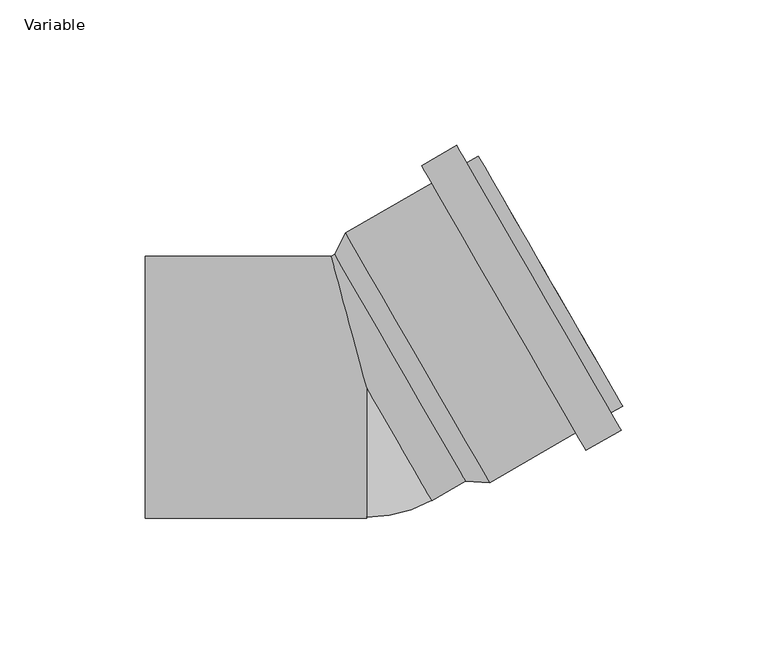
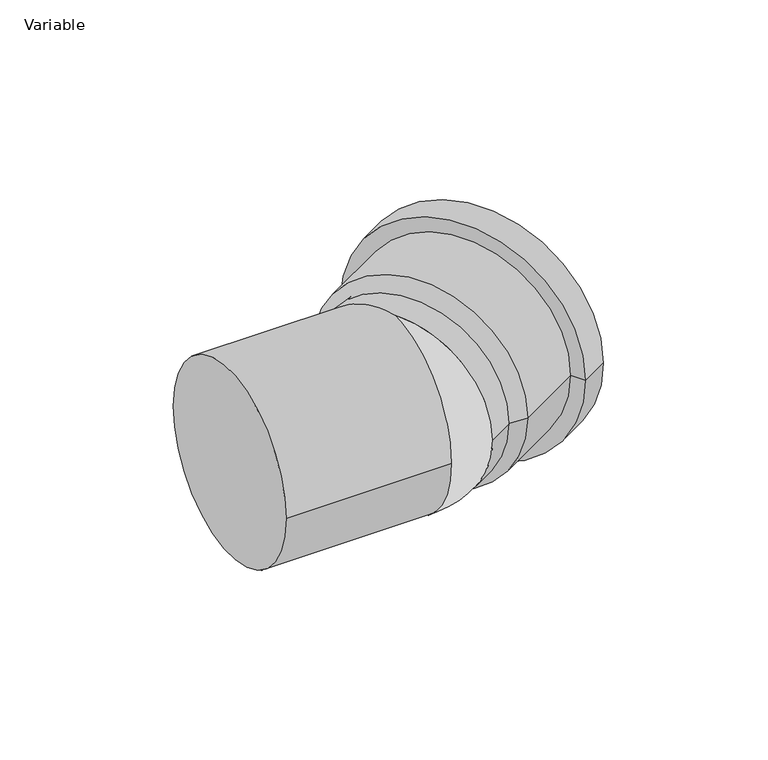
"""IFC4 building model written with IfcOpenShell, lengths in millimetres: pipe fitting geometry, AliaxisFR_Friaphon_ElbowMF_FR : Variable."""

import ifcopenshell
import ifcopenshell.guid

model = None  # the IFC model being written
_history = None  # IfcOwnerHistory: only IFC2X3 demands one
_inside = {}  # id of a spatial element -> (the spatial element, [elements in it])
_under = {}  # id of a project, library or spatial element -> (it, [spatial elements below it])
_declared = {}  # id of a project -> (the project, [libraries it declares])
_typed = {}  # id of a type object -> (the type object, [elements of that type])
_made_of = {}  # id of a material, layer set ... -> (it, [elements and type objects made of it])


def new_model(schema):
    """Start an empty IFC model of exactly this schema.

    Asked for "IFC4X3", IfcOpenShell would pick the latest addendum, in which some entities
    have other attributes; the version numbers below select the first issue.
    IFC2X3 requires an IfcOwnerHistory on every rooted entity: one is made here for all.
    """
    global model, _history
    if schema == "IFC4X3":
        model = ifcopenshell.file(schema_version=(4, 3, 0, 0))
    else:
        model = ifcopenshell.file(schema=schema)
    _inside.clear()
    _under.clear()
    _declared.clear()
    _typed.clear()
    _made_of.clear()
    _history = None
    if model.schema == "IFC2X3":
        org = make("IfcOrganization", Name="unknown")
        user = make(
            "IfcPersonAndOrganization",
            ThePerson=make("IfcPerson", FamilyName="unknown"),
            TheOrganization=org,
        )
        app = make(
            "IfcApplication",
            ApplicationDeveloper=org,
            Version="unknown",
            ApplicationFullName="unknown",
            ApplicationIdentifier="unknown",
        )
        _history = make(
            "IfcOwnerHistory",
            OwningUser=user,
            OwningApplication=app,
            ChangeAction="ADDED",
            CreationDate=0,
        )
    return model


def make(cls, **values):
    """One entity of the class cls with the attributes given. An attribute that is None is left unset."""
    return model.create_entity(
        cls, **{name: value for name, value in values.items() if value is not None}
    )


def rooted(cls, **values):
    """An entity with a GlobalId (a new one), such as an element, a storey or a relation."""
    return make(cls, GlobalId=ifcopenshell.guid.new(), OwnerHistory=_history, **values)


def si_unit(unit_type, name, prefix=None):
    """IfcSIUnit, for example si_unit("LENGTHUNIT", "METRE", prefix="MILLI")."""
    return make("IfcSIUnit", UnitType=unit_type, Prefix=prefix, Name=name)


def assignment(units):
    """IfcUnitAssignment: the units of a project."""
    return None if units is None else make("IfcUnitAssignment", Units=units)


def point(xyz):
    """IfcCartesianPoint."""
    return None if xyz is None else make("IfcCartesianPoint", Coordinates=xyz)


def direction(xyz):
    """IfcDirection."""
    return None if xyz is None else make("IfcDirection", DirectionRatios=xyz)


def frame(location, z_axis=None, x_axis=None):
    """IfcAxis2Placement3D, a coordinate frame: its origin and axes. An axis left out is left unset."""
    return make(
        "IfcAxis2Placement3D",
        Location=point(location),
        Axis=direction(z_axis),
        RefDirection=direction(x_axis),
    )


def origin():
    """The frame at (0, 0, 0) with its axes left unset."""
    return frame((0.0, 0.0, 0.0))


def place(relative_to, where):
    """IfcLocalPlacement: puts the frame where relative to a parent placement (None: the world)."""
    return make(
        "IfcLocalPlacement", PlacementRelTo=relative_to, RelativePlacement=where
    )


def context(
    kind, dimensions, precision=None, world=None, true_north=None, identifier=None
):
    """IfcGeometricRepresentationContext, for example the 3D "Model" context."""
    return make(
        "IfcGeometricRepresentationContext",
        ContextIdentifier=identifier,
        ContextType=kind,
        CoordinateSpaceDimension=dimensions,
        Precision=precision,
        WorldCoordinateSystem=world,
        TrueNorth=true_north,
    )


def project(units=None, contexts=None):
    """IfcProject with its units and contexts."""
    return rooted(
        "IfcProject",
        Name="project",
        RepresentationContexts=contexts,
        UnitsInContext=assignment(units),
    )


def spatial(cls, under=None, at=None, **own):
    """A site, building, storey or space (cls), placed at a placement, below another one or the project."""
    s = rooted(cls, ObjectPlacement=at, **own)
    if under is not None:
        _under.setdefault(under.id(), (under, []))[1].append(s)
    return s


def polyline(points):
    """IfcPolyline through the points."""
    return make("IfcPolyline", Points=[point(p) for p in points])


def circle_curve(where, radius):
    """IfcCircle in the frame where."""
    return make("IfcCircle", Position=where, Radius=radius)


def ellipse_curve(where, semi_axis1, semi_axis2):
    """IfcEllipse in the frame where."""
    return make(
        "IfcEllipse", Position=where, SemiAxis1=semi_axis1, SemiAxis2=semi_axis2
    )


def trimmed(basis, trim1, trim2, sense, master):
    """IfcTrimmedCurve: the piece of a basis curve between two trims."""
    return make(
        "IfcTrimmedCurve",
        BasisCurve=basis,
        Trim1=trim1,
        Trim2=trim2,
        SenseAgreement=sense,
        MasterRepresentation=master,
    )


def shape(context_of_items, identifier, shape_type, items):
    """IfcShapeRepresentation: the items that make up one representation, for example the "Body"."""
    return make(
        "IfcShapeRepresentation",
        ContextOfItems=context_of_items,
        RepresentationIdentifier=identifier,
        RepresentationType=shape_type,
        Items=items,
    )


def source(mapping_origin, context_of_items, identifier, shape_type, items):
    """IfcRepresentationMap: a shape defined once, which mapped items show again and again."""
    return make(
        "IfcRepresentationMap",
        MappingOrigin=mapping_origin,
        MappedRepresentation=shape(context_of_items, identifier, shape_type, items),
    )


def transform(
    local_origin,
    x_axis=None,
    y_axis=None,
    z_axis=None,
    scale=None,
    scale2=None,
    scale3=None,
    uniform=True,
):
    """IfcCartesianTransformationOperator3D, or its non-uniform kind. x_axis, y_axis, z_axis: its Axis1, 2, 3."""
    if uniform:
        return make(
            "IfcCartesianTransformationOperator3D",
            Axis1=direction(x_axis),
            Axis2=direction(y_axis),
            LocalOrigin=point(local_origin),
            Scale=scale,
            Axis3=direction(z_axis),
        )
    return make(
        "IfcCartesianTransformationOperator3DnonUniform",
        Axis1=direction(x_axis),
        Axis2=direction(y_axis),
        LocalOrigin=point(local_origin),
        Scale=scale,
        Axis3=direction(z_axis),
        Scale2=scale2,
        Scale3=scale3,
    )


def mapped(mapping_source, mapping_target):
    """IfcMappedItem: shows the shape of a source again, moved by a transform."""
    return make(
        "IfcMappedItem", MappingSource=mapping_source, MappingTarget=mapping_target
    )


def made_of(thing, what):
    """Note that an element or type object is made of a material, layer set ...; save() writes the relation."""
    if what is not None:
        _made_of.setdefault(what.id(), (what, []))[1].append(thing)
    return thing


def element(
    cls,
    number,
    at=None,
    inside=None,
    cuts=None,
    type_object=None,
    material=None,
    context=None,
    identifier="Body",
    shape_type=None,
    held_by="IfcProductDefinitionShape",
    body=None,
    shapes=None,
    **own,
):
    """One element of the class cls, such as IfcWall. Its Tag is "e" and its number.

    at: its placement. inside: the storey or other place that contains it. cuts: it is an
    opening in that element (IfcRelVoidsElement). A single representation is given by context,
    identifier, shape_type and body (its items); several are given by shapes. held_by: the class
    of the entity that holds the representations. save() writes the other relations.
    """
    e = rooted(cls, Tag="e%d" % number, ObjectPlacement=at, **own)
    if body is not None:
        shapes = [shape(context, identifier, shape_type, body)]
    if shapes is not None:
        e.Representation = make(held_by, Representations=shapes)
    if inside is not None:
        _inside.setdefault(inside.id(), (inside, []))[1].append(e)
    if cuts is not None:
        rooted(
            "IfcRelVoidsElement", RelatingBuildingElement=cuts, RelatedOpeningElement=e
        )
    if type_object is not None:
        _typed.setdefault(type_object.id(), (type_object, []))[1].append(e)
    return made_of(e, material)


def aggregate(whole, parts):
    """IfcRelAggregates: a whole, such as a stair, and the parts it consists of."""
    return rooted("IfcRelAggregates", RelatingObject=whole, RelatedObjects=parts)


def save(model, path):
    """Write the relations noted so far, then the file.

    IfcRelAggregates (storeys below a building ...), IfcRelContainedInSpatialStructure (elements
    in a storey), IfcRelDefinesByType, IfcRelAssociatesMaterial and IfcRelDeclares: one each for
    every whole, place, type object, material and project.
    """
    for whole, parts in _under.values():
        aggregate(whole, parts)
    for where, things in _inside.values():
        rooted(
            "IfcRelContainedInSpatialStructure",
            RelatedElements=things,
            RelatingStructure=where,
        )
    for kind, things in _typed.values():
        rooted("IfcRelDefinesByType", RelatedObjects=things, RelatingType=kind)
    for what, things in _made_of.values():
        rooted("IfcRelAssociatesMaterial", RelatedObjects=things, RelatingMaterial=what)
    for by, libraries in _declared.values():
        rooted("IfcRelDeclares", RelatingContext=by, RelatedDefinitions=libraries)
    model.write(path)


def plane_surface(at):
    """IfcPlane: the flat surface through the origin of the frame at, square to its z axis."""
    return make("IfcPlane", Position=at)


def cylinder_surface(at, radius):
    """IfcCylindricalSurface: all points at the distance radius from the z axis of the frame at."""
    return make("IfcCylindricalSurface", Position=at, Radius=radius)


def revolved_surface(curve, axis_point, axis_direction):
    """IfcSurfaceOfRevolution: the curve turned about the line through axis_point along axis_direction."""
    return make(
        "IfcSurfaceOfRevolution",
        SweptCurve=make("IfcArbitraryOpenProfileDef", ProfileType="CURVE", Curve=curve),
        AxisPosition=make("IfcAxis1Placement", Location=point(axis_point), Axis=direction(axis_direction)),
    )


def advanced_brep(points, edges, surfaces, faces):
    """IfcAdvancedBrep: a solid bounded by faces that lie on surfaces and meet in shared edges.

    An edge is (start, end): straight between two places in points (the first is 0);
    or (start, end, curve); or (start, end, curve, False) where it runs against its curve.
    A face is (place in surfaces, loops), or (place, loops, False) where it looks against
    its surface's normal. A loop lists edges by number (the first is 1), with a minus sign
    where the edge is run from its end to its start. The first loop is the outer one.
    """
    corners = [point(p) for p in points]
    vertices = [make("IfcVertexPoint", VertexGeometry=c) for c in corners]
    made = []
    for start, end, *more in edges:
        made.append(
            make(
                "IfcEdgeCurve",
                EdgeStart=vertices[start],
                EdgeEnd=vertices[end],
                EdgeGeometry=more[0] if more else make("IfcPolyline", Points=[corners[start], corners[end]]),
                SameSense=more[1] if len(more) > 1 else True,
            )
        )
    hull = []
    for where, loops, *sense in faces:
        bounds = []
        for j, loop in enumerate(loops):
            ring = [make("IfcOrientedEdge", EdgeElement=made[abs(k) - 1], Orientation=k > 0) for k in loop]
            bounds.append(
                make(
                    "IfcFaceOuterBound" if j == 0 else "IfcFaceBound",
                    Bound=make("IfcEdgeLoop", EdgeList=ring),
                    Orientation=True,
                )
            )
        hull.append(make("IfcAdvancedFace", Bounds=bounds, FaceSurface=surfaces[where], SameSense=sense[0] if sense else True))
    return make("IfcAdvancedBrep", Outer=make("IfcClosedShell", CfsFaces=hull))


def variable_d9d8d9a4(model_context):
    return source(origin(), model_context, "Body", "AdvancedBrep", [
        advanced_brep(
        [(88.0198545, -6.45486, 0.0), (38.4198545, 79.45486, 0.0), (40.7198545, 75.4711432, 0.0), (85.7198545, -2.4711432, 0.0), (75.4483845, -21.6804353, 0.0), (18.9483845, 76.1804353, 0.0), (30.9861376, 83.1304353, 0.0), (87.4861376, -14.7304353, 0.0), (71.9983845, -15.70486, 0.0), (22.3983845, 70.20486, 0.0), (42.3803157, -32.80486, 0.0), (-7.2196843, 53.10486, 0.0), (-10.8952596, 45.6711432, 0.0), (34.1047404, -32.2711432, 0.0), (84.0361376, -8.75486, 0.0), (34.4361376, 77.15486, 0.0)],
        [
            (0, 1, circle_curve(frame((63.2198545, 36.5, 0.0), z_axis=(0.866025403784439, 0.4999999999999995, 0.0), x_axis=(-0.4999999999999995, 0.866025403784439, 0.0)), 49.6)),
            (1, 2),
            (2, 3, circle_curve(frame((63.2198545, 36.5, 0.0), z_axis=(-0.866025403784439, -0.4999999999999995, 0.0), x_axis=(-0.4999999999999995, 0.866025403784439, 0.0)), 45.0)),
            (3, 0),
            (1, 0, circle_curve(frame((63.2198545, 36.5, 0.0), z_axis=(0.866025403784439, 0.4999999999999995, 0.0), x_axis=(-0.4999999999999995, 0.866025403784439, 0.0)), 49.6)),
            (3, 2, circle_curve(frame((63.2198545, 36.5, 0.0), z_axis=(-0.866025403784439, -0.4999999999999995, 0.0), x_axis=(-0.4999999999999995, 0.866025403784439, 0.0)), 45.0)),
            (4, 5, circle_curve(frame((47.1983845, 27.25, 0.0), z_axis=(0.866025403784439, 0.4999999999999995, 0.0), x_axis=(-0.4999999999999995, 0.866025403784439, 0.0)), 56.5)),
            (5, 6),
            (6, 7, circle_curve(frame((59.2361376, 34.2, 0.0), z_axis=(-0.866025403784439, -0.4999999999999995, 0.0), x_axis=(-0.4999999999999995, 0.866025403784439, 0.0)), 56.5)),
            (7, 4),
            (5, 4, circle_curve(frame((47.1983845, 27.25, 0.0), z_axis=(0.866025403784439, 0.4999999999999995, 0.0), x_axis=(-0.4999999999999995, 0.866025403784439, 0.0)), 56.5)),
            (7, 6, circle_curve(frame((59.2361376, 34.2, 0.0), z_axis=(-0.866025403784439, -0.4999999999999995, 0.0), x_axis=(-0.4999999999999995, 0.866025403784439, 0.0)), 56.5)),
            (8, 9, circle_curve(frame((47.1983845, 27.25, 0.0), z_axis=(0.866025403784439, 0.4999999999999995, 0.0), x_axis=(-0.4999999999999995, 0.866025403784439, 0.0)), 49.6)),
            (9, 5),
            (4, 8),
            (9, 8, circle_curve(frame((47.1983845, 27.25, 0.0), z_axis=(0.866025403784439, 0.4999999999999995, 0.0), x_axis=(-0.4999999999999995, 0.866025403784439, 0.0)), 49.6)),
            (10, 11, circle_curve(frame((17.5803157, 10.15, 0.0), z_axis=(0.866025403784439, 0.4999999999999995, 0.0), x_axis=(-0.4999999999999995, 0.866025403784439, 0.0)), 49.6)),
            (11, 9),
            (8, 10),
            (11, 10, circle_curve(frame((17.5803157, 10.15, 0.0), z_axis=(0.866025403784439, 0.4999999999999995, 0.0), x_axis=(-0.4999999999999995, 0.866025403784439, 0.0)), 49.6)),
            (2, 12),
            (12, 13, circle_curve(frame((11.6047404, 6.7, 0.0), z_axis=(-0.866025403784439, -0.4999999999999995, 0.0), x_axis=(-0.4999999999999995, 0.866025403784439, 0.0)), 45.0)),
            (13, 3),
            (13, 12, circle_curve(frame((11.6047404, 6.7, 0.0), z_axis=(-0.866025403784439, -0.4999999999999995, 0.0), x_axis=(-0.4999999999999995, 0.866025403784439, 0.0)), 45.0)),
            (12, 11),
            (10, 13),
            (14, 15, circle_curve(frame((59.2361376, 34.2, 0.0), z_axis=(0.866025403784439, 0.4999999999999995, 0.0), x_axis=(-0.4999999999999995, 0.866025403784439, 0.0)), 49.6)),
            (15, 1),
            (0, 14),
            (15, 14, circle_curve(frame((59.2361376, 34.2, 0.0), z_axis=(0.866025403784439, 0.4999999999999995, 0.0), x_axis=(-0.4999999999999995, 0.866025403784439, 0.0)), 49.6)),
            (6, 15),
            (14, 7),
        ],
        [
            plane_surface(frame((63.2198545, 36.5, 0.0), z_axis=(0.866025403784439, 0.4999999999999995, 0.0), x_axis=(-0.4999999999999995, 0.866025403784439, 0.0))),
            cylinder_surface(frame((11.6047404, 6.7, 0.0), z_axis=(-0.866025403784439, -0.4999999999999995, 0.0), x_axis=(-0.4999999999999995, 0.866025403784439, 0.0)), 56.5),
            plane_surface(frame((47.1983845, 27.25, 0.0), z_axis=(-0.866025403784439, -0.4999999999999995, 0.0), x_axis=(-0.4999999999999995, 0.866025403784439, 0.0))),
            cylinder_surface(frame((11.6047404, 6.7, 0.0), z_axis=(-0.866025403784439, -0.4999999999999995, 0.0), x_axis=(-0.4999999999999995, 0.866025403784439, 0.0)), 49.6),
            revolved_surface(polyline([(-10.89525961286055, 45.671143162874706, 0.0), (40.719854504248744, 75.47114319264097, 0.0)]), (11.6047404, 6.7, 0.0), (-0.866025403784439, -0.4999999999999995, 0.0)),
            revolved_surface(polyline([(-7.2196843, 53.10486, 0.0), (-10.8952596, 45.6711432, 0.0)]), (11.6047404, 6.7, 0.0), (-0.866025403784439, -0.4999999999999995, 0.0)),
            plane_surface(frame((59.2361376, 34.2, 0.0), z_axis=(0.866025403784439, 0.4999999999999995, 0.0), x_axis=(-0.4999999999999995, 0.866025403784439, 0.0))),
        ],
        [
            (0, [[1, 2, 3, 4]]),
            (0, [[5, -4, 6, -2]]),
            (1, [[7, 8, 9, 10]]),
            (1, [[11, -10, 12, -8]]),
            (2, [[13, 14, -7, 15]]),
            (2, [[16, -15, -11, -14]]),
            (3, [[17, 18, -13, 19]]),
            (3, [[20, -19, -16, -18]]),
            (4, [[-3, 21, 22, 23]]),
            (4, [[-6, -23, 24, -21]]),
            (5, [[-22, 25, -17, 26]]),
            (5, [[-24, -26, -20, -25]]),
            (3, [[27, 28, -1, 29]]),
            (3, [[30, -29, -5, -28]]),
            (6, [[-9, 31, -27, 32]]),
            (6, [[-12, -32, -30, -31]]),
        ],
    ),
        advanced_brep(
        [(-6.9115427, 47.9711432, 0.0), (38.0884573, -29.9711432, 0.0), (22.5, -38.9711432, 0.0), (-12.0577137, 45.0, 0.0), (0.0, 0.0, 45.0), (0.0, 0.0, -45.0), (-76.0, -45.0, 0.0), (-76.0, 45.0, 0.0), (0.0, -45.0, 0.0)],
        [
            (0, 1, circle_curve(frame((15.5884573, 9.0, 0.0), z_axis=(0.8660254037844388, 0.49999999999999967, 0.0), x_axis=(-0.49999999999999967, 0.8660254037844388, 0.0)), 45.0)),
            (1, 0, circle_curve(frame((15.5884573, 9.0, 0.0), z_axis=(0.8660254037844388, 0.49999999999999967, 0.0), x_axis=(-0.49999999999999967, 0.8660254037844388, 0.0)), 45.0)),
            (2, 1),
            (0, 3),
            (3, 4, ellipse_curve(frame((0.0, 0.0, 0.0), z_axis=(0.9659258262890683, 0.2588190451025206, 0.0), x_axis=(0.2588190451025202, -0.9659258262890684, 0.0)), 46.5874281, 45.0)),
            (4, 2, circle_curve(frame((0.0, 0.0, 0.0), z_axis=(0.8660254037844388, 0.49999999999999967, 0.0), x_axis=(-0.49999999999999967, 0.8660254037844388, 0.0)), 45.0)),
            (2, 5, circle_curve(frame((0.0, 0.0, 0.0), z_axis=(0.8660254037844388, 0.49999999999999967, 0.0), x_axis=(-0.49999999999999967, 0.8660254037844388, 0.0)), 45.0)),
            (5, 3, ellipse_curve(frame((0.0, 0.0, 0.0), z_axis=(0.9659258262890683, 0.2588190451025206, 0.0), x_axis=(0.2588190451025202, -0.9659258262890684, 0.0)), 46.5874281, 45.0)),
            (6, 7, circle_curve(frame((-76.0, 0.0, 0.0), z_axis=(-1.0, 0.0, 0.0), x_axis=(0.0, 1.0, 0.0)), 45.0)),
            (7, 6, circle_curve(frame((-76.0, 0.0, 0.0), z_axis=(-1.0, 0.0, 0.0), x_axis=(0.0, 1.0, 0.0)), 45.0)),
            (6, 8),
            (8, 4, circle_curve(frame((0.0, 0.0, 0.0), z_axis=(-1.0, 0.0, 0.0), x_axis=(0.0, 1.0, 0.0)), 45.0)),
            (3, 7),
            (5, 8, circle_curve(frame((0.0, 0.0, 0.0), z_axis=(-1.0, 0.0, 0.0), x_axis=(0.0, 1.0, 0.0)), 45.0)),
        ],
        [
            plane_surface(frame((15.5884573, 9.0, 0.0), z_axis=(0.8660254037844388, 0.49999999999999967, 0.0), x_axis=(0.0, 0.0, 1.0))),
            cylinder_surface(frame((0.0, 0.0, 0.0), z_axis=(-0.8660254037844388, -0.49999999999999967, 0.0), x_axis=(-0.49999999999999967, 0.8660254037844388, 0.0)), 45.0),
            plane_surface(frame((-76.0, 0.0, 0.0), z_axis=(-1.0, 0.0, 0.0), x_axis=(0.0, 0.0, 1.0))),
            cylinder_surface(frame((-76.0, 0.0, 0.0), z_axis=(-1.0, 0.0, 0.0), x_axis=(0.0, 1.0, 0.0)), 45.0),
            revolved_surface(trimmed(ellipse_curve(frame((0.0, 0.0, 0.0), z_axis=(0.8660254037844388, 0.49999999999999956, 0.0), x_axis=(-0.49999999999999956, 0.8660254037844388, 0.0)), 45.0, 45.0), [point((0.0, 0.0, 45.0))], [point((0.0, 0.0, -45.0))], True, "CARTESIAN"), (0.0, 0.0, 45.0), (0.0, 0.0, -1.0)),
        ],
        [
            (0, [[1, 2]]),
            (1, [[3, -1, 4, 5, 6]]),
            (1, [[-2, -3, 7, 8, -4]]),
            (2, [[9, 10]]),
            (3, [[-9, 11, 12, -5, 13]]),
            (3, [[-10, -13, -8, 14, -11]]),
            (4, [[-12, -14, -7, -6]]),
        ],
    ),
    ])


if __name__ == "__main__":
    model = new_model("IFC4")
    model_context = context("Model", 3, world=origin())
    ifc_project = project(units=[si_unit("LENGTHUNIT", "METRE", prefix="MILLI")], contexts=[model_context])
    site = spatial("IfcSite", under=ifc_project)
    building = spatial("IfcBuilding", under=site)
    placement = place(None, origin())
    variable_shape = variable_d9d8d9a4(model_context)
    element("IfcPipeFitting", 1, ObjectType="AliaxisFR_Friaphon_ElbowMF_FR : Variable", at=placement, inside=building, context=model_context, shape_type="MappedRepresentation", body=[
        mapped(variable_shape, transform((0.0, 0.0, 0.0), x_axis=(1.0, 0.0, 0.0), y_axis=(0.0, 1.0, 0.0), z_axis=(0.0, 0.0, 1.0))),
    ])
    save(model, "model.ifc")
